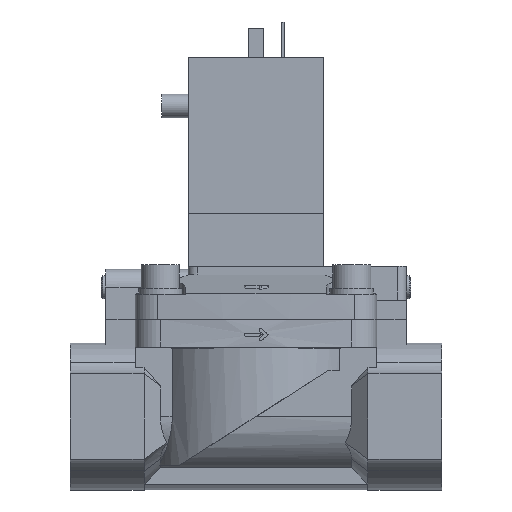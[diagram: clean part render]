
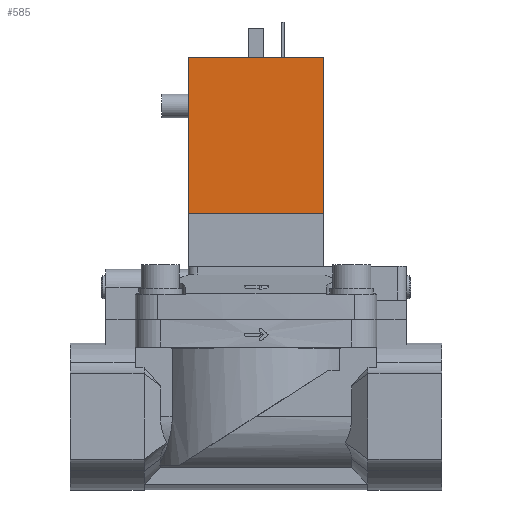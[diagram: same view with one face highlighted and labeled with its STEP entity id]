
A CAD part, top view. The second image highlights one B-rep face of the part: STEP entity #585.
In plain terms, the highlighted planar face has unit normal (0, 0, 1) as drawn and (0, 0, -1) by its records, which use the part's own axes.
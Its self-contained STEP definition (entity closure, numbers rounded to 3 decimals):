
#585 = ADVANCED_FACE( '', ( #1272 ), #1273, .F. );
#1272 = FACE_OUTER_BOUND( '', #2070, .T. );
#1273 = PLANE( '', #2071 );
#2070 = EDGE_LOOP( '', ( #3576, #3577, #3578, #3579 ) );
#2071 = AXIS2_PLACEMENT_3D( '', #3580, #3581, #3582 );
#3576 = ORIENTED_EDGE( '', *, *, #5162, .T. );
#3577 = ORIENTED_EDGE( '', *, *, #5289, .F. );
#3578 = ORIENTED_EDGE( '', *, *, #5269, .F. );
#3579 = ORIENTED_EDGE( '', *, *, #5290, .T. );
#3580 = CARTESIAN_POINT( '', ( 23., 71., -17. ) );
#3581 = DIRECTION( '', ( 0., 0., 1. ) );
#3582 = DIRECTION( '', ( 1., 0., 0. ) );
#5162 = EDGE_CURVE( '', #6343, #6347, #6349, .T. );
#5269 = EDGE_CURVE( '', #6498, #6496, #6500, .T. );
#5289 = EDGE_CURVE( '', #6496, #6347, #6527, .T. );
#5290 = EDGE_CURVE( '', #6498, #6343, #6528, .T. );
#6343 = VERTEX_POINT( '', #7999 );
#6347 = VERTEX_POINT( '', #8005 );
#6349 = LINE( '', #8008, #8009 );
#6496 = VERTEX_POINT( '', #8219 );
#6498 = VERTEX_POINT( '', #8222 );
#6500 = LINE( '', #8225, #8226 );
#6527 = LINE( '', #8274, #8275 );
#6528 = LINE( '', #8276, #8277 );
#7999 = CARTESIAN_POINT( '', ( 23., 18., -17. ) );
#8005 = CARTESIAN_POINT( '', ( -23., 18., -17. ) );
#8008 = CARTESIAN_POINT( '', ( 23., 18., -17. ) );
#8009 = VECTOR( '', #9383, 1000. );
#8219 = CARTESIAN_POINT( '', ( -23., 71., -17. ) );
#8222 = CARTESIAN_POINT( '', ( 23., 71., -17. ) );
#8225 = CARTESIAN_POINT( '', ( 23., 71., -17. ) );
#8226 = VECTOR( '', #9495, 1000. );
#8274 = CARTESIAN_POINT( '', ( -23., 71., -17. ) );
#8275 = VECTOR( '', #9514, 1000. );
#8276 = CARTESIAN_POINT( '', ( 23., 71., -17. ) );
#8277 = VECTOR( '', #9515, 1000. );
#9383 = DIRECTION( '', ( -1., 0., 0. ) );
#9495 = DIRECTION( '', ( -1., 0., 0. ) );
#9514 = DIRECTION( '', ( 0., -1., 0. ) );
#9515 = DIRECTION( '', ( 0., -1., 0. ) );
